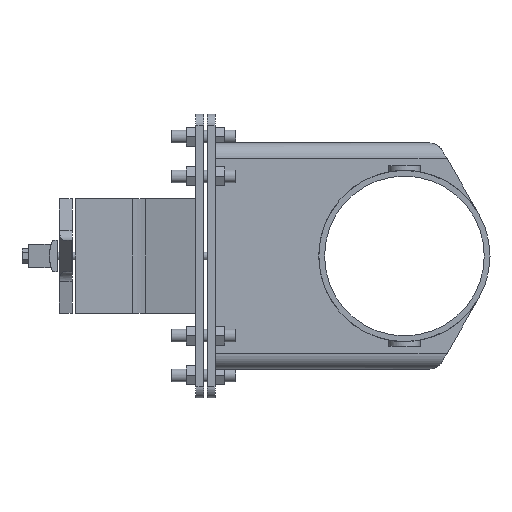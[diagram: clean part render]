
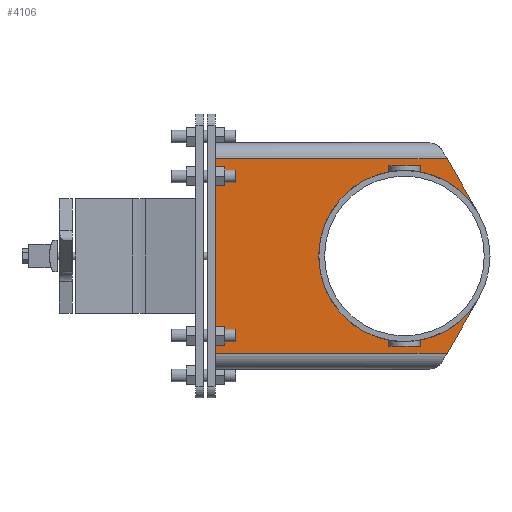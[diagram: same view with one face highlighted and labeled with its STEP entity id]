
A CAD part, left-side view. The second image highlights one B-rep face of the part: STEP entity #4106.
In plain terms, the highlighted planar face has unit normal (-1, 0, 0).
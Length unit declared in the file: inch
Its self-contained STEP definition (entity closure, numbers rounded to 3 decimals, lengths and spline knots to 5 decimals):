
#184=CIRCLE('',#4371,5.375);
#185=CIRCLE('',#4372,5.375);
#186=CIRCLE('',#4373,5.375);
#328=FACE_OUTER_BOUND('',#556,.T.);
#556=EDGE_LOOP('',(#2847,#2848,#2849,#2850,#2851,#2852,#2853,#2854,#2855,
#2856,#2857,#2858,#2859,#2860));
#880=LINE('',#6053,#1308);
#889=LINE('',#6082,#1317);
#899=LINE('',#6108,#1327);
#908=LINE('',#6134,#1336);
#910=LINE('',#6138,#1338);
#911=LINE('',#6142,#1339);
#912=LINE('',#6144,#1340);
#913=LINE('',#6146,#1341);
#914=LINE('',#6150,#1342);
#915=LINE('',#6152,#1343);
#916=LINE('',#6154,#1344);
#1308=VECTOR('',#4871,0.3937);
#1317=VECTOR('',#4898,0.3937);
#1327=VECTOR('',#4924,0.3937);
#1336=VECTOR('',#4945,0.3937);
#1338=VECTOR('',#4949,0.3937);
#1339=VECTOR('',#4952,0.3937);
#1340=VECTOR('',#4953,0.3937);
#1341=VECTOR('',#4954,0.3937);
#1342=VECTOR('',#4957,0.3937);
#1343=VECTOR('',#4958,0.3937);
#1344=VECTOR('',#4959,0.3937);
#1712=VERTEX_POINT('',#6050);
#1713=VERTEX_POINT('',#6052);
#1724=VERTEX_POINT('',#6081);
#1732=VERTEX_POINT('',#6107);
#1743=VERTEX_POINT('',#6133);
#1744=VERTEX_POINT('',#6137);
#1745=VERTEX_POINT('',#6139);
#1746=VERTEX_POINT('',#6141);
#1747=VERTEX_POINT('',#6143);
#1748=VERTEX_POINT('',#6145);
#1749=VERTEX_POINT('',#6147);
#1750=VERTEX_POINT('',#6149);
#1751=VERTEX_POINT('',#6151);
#1752=VERTEX_POINT('',#6153);
#2122=EDGE_CURVE('',#1713,#1712,#880,.T.);
#2137=EDGE_CURVE('',#1724,#1712,#889,.T.);
#2151=EDGE_CURVE('',#1713,#1732,#899,.T.);
#2164=EDGE_CURVE('',#1743,#1732,#908,.T.);
#2166=EDGE_CURVE('',#1724,#1744,#910,.T.);
#2167=EDGE_CURVE('',#1745,#1744,#184,.T.);
#2168=EDGE_CURVE('',#1745,#1746,#911,.T.);
#2169=EDGE_CURVE('',#1746,#1747,#912,.T.);
#2170=EDGE_CURVE('',#1747,#1748,#913,.T.);
#2171=EDGE_CURVE('',#1749,#1748,#185,.T.);
#2172=EDGE_CURVE('',#1749,#1750,#914,.T.);
#2173=EDGE_CURVE('',#1750,#1751,#915,.T.);
#2174=EDGE_CURVE('',#1751,#1752,#916,.T.);
#2175=EDGE_CURVE('',#1743,#1752,#186,.T.);
#2847=ORIENTED_EDGE('',*,*,#2137,.F.);
#2848=ORIENTED_EDGE('',*,*,#2166,.T.);
#2849=ORIENTED_EDGE('',*,*,#2167,.F.);
#2850=ORIENTED_EDGE('',*,*,#2168,.T.);
#2851=ORIENTED_EDGE('',*,*,#2169,.T.);
#2852=ORIENTED_EDGE('',*,*,#2170,.T.);
#2853=ORIENTED_EDGE('',*,*,#2171,.F.);
#2854=ORIENTED_EDGE('',*,*,#2172,.T.);
#2855=ORIENTED_EDGE('',*,*,#2173,.T.);
#2856=ORIENTED_EDGE('',*,*,#2174,.T.);
#2857=ORIENTED_EDGE('',*,*,#2175,.F.);
#2858=ORIENTED_EDGE('',*,*,#2164,.T.);
#2859=ORIENTED_EDGE('',*,*,#2151,.F.);
#2860=ORIENTED_EDGE('',*,*,#2122,.T.);
#3713=PLANE('',#4370);
#4106=ADVANCED_FACE('',(#328),#3713,.F.);
#4370=AXIS2_PLACEMENT_3D('',#6136,#4947,#4948);
#4371=AXIS2_PLACEMENT_3D('',#6140,#4950,#4951);
#4372=AXIS2_PLACEMENT_3D('',#6148,#4955,#4956);
#4373=AXIS2_PLACEMENT_3D('',#6155,#4960,#4961);
#4871=DIRECTION('',(0.,0.,-1.));
#4898=DIRECTION('',(0.,1.,0.));
#4924=DIRECTION('',(0.,-1.,0.));
#4945=DIRECTION('',(0.,0.5,0.866));
#4947=DIRECTION('center_axis',(1.,0.,0.));
#4948=DIRECTION('ref_axis',(0.,0.,-1.));
#4949=DIRECTION('',(0.,-0.5,0.866));
#4950=DIRECTION('center_axis',(-1.,0.,0.));
#4951=DIRECTION('ref_axis',(0.,1.,0.));
#4952=DIRECTION('',(0.,0.,-1.));
#4953=DIRECTION('',(0.,1.,0.));
#4954=DIRECTION('',(0.,0.,1.));
#4955=DIRECTION('center_axis',(-1.,0.,0.));
#4956=DIRECTION('ref_axis',(0.,1.,0.));
#4957=DIRECTION('',(0.,0.,1.));
#4958=DIRECTION('',(0.,-1.,0.));
#4959=DIRECTION('',(0.,0.,-1.));
#4960=DIRECTION('center_axis',(-1.,0.,0.));
#4961=DIRECTION('ref_axis',(0.,1.,0.));
#6050=CARTESIAN_POINT('',(-3.5,11.89,-6.105));
#6052=CARTESIAN_POINT('',(-3.5,11.89,6.105));
#6053=CARTESIAN_POINT('',(-3.5,11.89,7.105));
#6081=CARTESIAN_POINT('',(-3.5,-2.68179,-6.105));
#6082=CARTESIAN_POINT('',(-3.5,1.15322,-6.105));
#6107=CARTESIAN_POINT('',(-3.5,-2.68179,6.105));
#6108=CARTESIAN_POINT('',(-3.5,8.15044,6.105));
#6133=CARTESIAN_POINT('',(-3.5,-4.65489,2.6875));
#6134=CARTESIAN_POINT('',(-3.5,-4.65489,2.6875));
#6136=CARTESIAN_POINT('Origin',(-3.5,4.41088,0.));
#6137=CARTESIAN_POINT('',(-3.5,-4.65489,-2.6875));
#6138=CARTESIAN_POINT('',(-3.5,-2.10444,-7.105));
#6139=CARTESIAN_POINT('',(-3.5,-0.75299,-5.32199));
#6140=CARTESIAN_POINT('Origin',(-3.5,0.,0.));
#6141=CARTESIAN_POINT('',(-3.5,-0.75299,-5.675));
#6142=CARTESIAN_POINT('',(-3.5,-0.75299,0.));
#6143=CARTESIAN_POINT('',(-3.5,0.75299,-5.675));
#6144=CARTESIAN_POINT('',(-3.5,2.20544,-5.675));
#6145=CARTESIAN_POINT('',(-3.5,0.75299,-5.32199));
#6146=CARTESIAN_POINT('',(-3.5,0.75299,0.));
#6147=CARTESIAN_POINT('',(-3.5,0.75299,5.32199));
#6148=CARTESIAN_POINT('Origin',(-3.5,0.,0.));
#6149=CARTESIAN_POINT('',(-3.5,0.75299,5.675));
#6150=CARTESIAN_POINT('',(-3.5,0.75299,0.));
#6151=CARTESIAN_POINT('',(-3.5,-0.75299,5.675));
#6152=CARTESIAN_POINT('',(-3.5,2.20544,5.675));
#6153=CARTESIAN_POINT('',(-3.5,-0.75299,5.32199));
#6154=CARTESIAN_POINT('',(-3.5,-0.75299,0.));
#6155=CARTESIAN_POINT('Origin',(-3.5,0.,0.));
